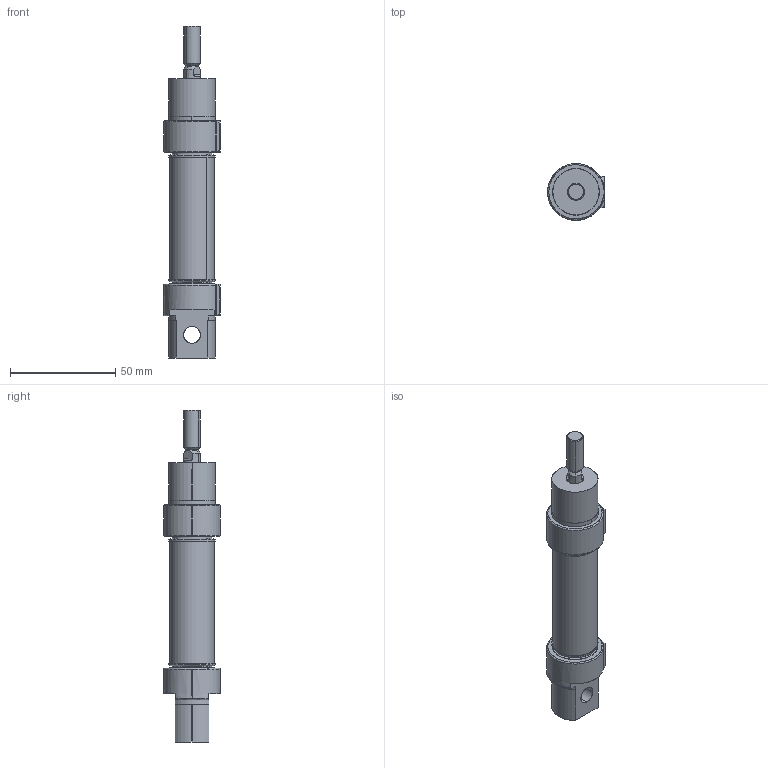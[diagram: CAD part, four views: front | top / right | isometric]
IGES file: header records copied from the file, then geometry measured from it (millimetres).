
Start section: SolidWorks IGES file using analytic representation for surfaces
Global section: file name: D:\ARICA 3D 禽Z軲LER\3D IGES\MA6432S\MA6432S 20\MA6432S20x30CYLINDER.IGS,1; native system: 5HSolidWorks 2013; preprocessor: SolidWorks 2013; author: user; date: 150511.113259; units: millimetre
Bounding box: 27 x 27 x 158 mm (x, y, z)
Surface area: 25520.9 mm2 (no closed solid volume)
Topology: 0 solids, 0 shells, 225 faces, 3779 edges, 3771 vertices
Faces by surface type: revolution 136, bspline 89
